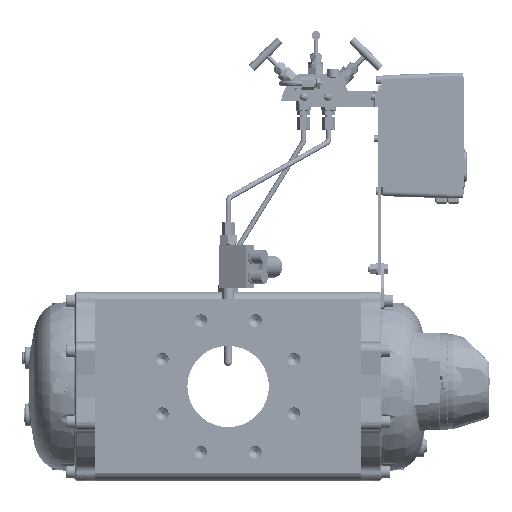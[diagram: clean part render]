
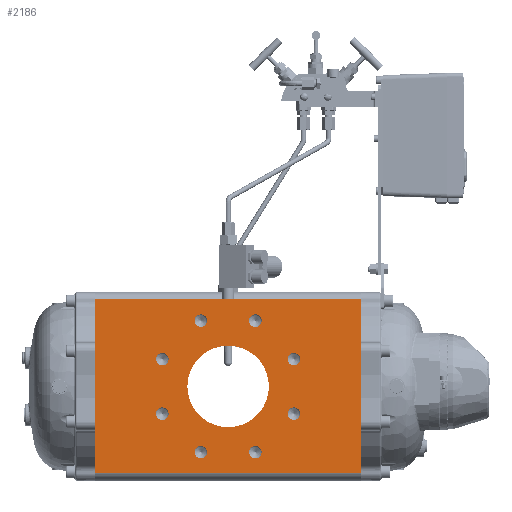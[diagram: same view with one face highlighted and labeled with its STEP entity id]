
A CAD part, front view. The second image highlights one B-rep face of the part: STEP entity #2186.
In plain terms, the highlighted planar face has unit normal (0, -1, 0).
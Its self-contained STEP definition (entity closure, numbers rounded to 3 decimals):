
#2186=ADVANCED_FACE('',(#93724,#93726,#93728,#93730,#93732,#93734,#93736,#93738,
#93740,#93742),#93744,.T.);
#93724=FACE_BOUND('',#93725,.T.);
#93725=EDGE_LOOP('',(#178975,#178976,#178977,#178978));
#93726=FACE_BOUND('',#93727,.T.);
#93727=EDGE_LOOP('',(#178979));
#93728=FACE_BOUND('',#93729,.T.);
#93729=EDGE_LOOP('',(#178980));
#93730=FACE_BOUND('',#93731,.T.);
#93731=EDGE_LOOP('',(#178981));
#93732=FACE_BOUND('',#93733,.T.);
#93733=EDGE_LOOP('',(#178982));
#93734=FACE_BOUND('',#93735,.T.);
#93735=EDGE_LOOP('',(#178983));
#93736=FACE_BOUND('',#93737,.T.);
#93737=EDGE_LOOP('',(#178984));
#93738=FACE_BOUND('',#93739,.T.);
#93739=EDGE_LOOP('',(#178985));
#93740=FACE_BOUND('',#93741,.T.);
#93741=EDGE_LOOP('',(#178986));
#93742=FACE_BOUND('',#93743,.T.);
#93743=EDGE_LOOP('',(#178987));
#93744=PLANE('',#93745);
#93745=AXIS2_PLACEMENT_3D('',#93746,#93747,#93748);
#93746=CARTESIAN_POINT('',(-336.,-120.5,110.));
#93747=DIRECTION('',(0.,-1.,0.));
#93748=DIRECTION('',(0.,0.,-1.));
#178975=ORIENTED_EDGE('',*,*,#247462,.T.);
#178976=ORIENTED_EDGE('',*,*,#247463,.T.);
#178977=ORIENTED_EDGE('',*,*,#247209,.T.);
#178978=ORIENTED_EDGE('',*,*,#247461,.F.);
#178979=ORIENTED_EDGE('',*,*,#247464,.T.);
#178980=ORIENTED_EDGE('',*,*,#247465,.T.);
#178981=ORIENTED_EDGE('',*,*,#247466,.T.);
#178982=ORIENTED_EDGE('',*,*,#247467,.T.);
#178983=ORIENTED_EDGE('',*,*,#247468,.T.);
#178984=ORIENTED_EDGE('',*,*,#247469,.T.);
#178985=ORIENTED_EDGE('',*,*,#247470,.T.);
#178986=ORIENTED_EDGE('',*,*,#247471,.T.);
#178987=ORIENTED_EDGE('',*,*,#247472,.T.);
#247209=EDGE_CURVE('',#277652,#277650,#277653,.T.);
#247461=EDGE_CURVE('',#278097,#277650,#278099,.T.);
#247462=EDGE_CURVE('',#278097,#278100,#278101,.T.);
#247463=EDGE_CURVE('',#278100,#277652,#278102,.T.);
#247464=EDGE_CURVE('',#278103,#278103,#278104,.T.);
#247465=EDGE_CURVE('',#278105,#278105,#278106,.T.);
#247466=EDGE_CURVE('',#278107,#278107,#278108,.T.);
#247467=EDGE_CURVE('',#278109,#278109,#278110,.T.);
#247468=EDGE_CURVE('',#278111,#278111,#278112,.T.);
#247469=EDGE_CURVE('',#278113,#278113,#278114,.T.);
#247470=EDGE_CURVE('',#278115,#278115,#278116,.T.);
#247471=EDGE_CURVE('',#278117,#278117,#278118,.T.);
#247472=EDGE_CURVE('',#278119,#278119,#278120,.T.);
#277650=VERTEX_POINT('',#327040);
#277652=VERTEX_POINT('',#327044);
#277653=LINE('',#327045,#327046);
#278097=VERTEX_POINT('',#330366);
#278099=LINE('',#330370,#330371);
#278100=VERTEX_POINT('',#330373);
#278101=LINE('',#330374,#330375);
#278102=LINE('',#330377,#330378);
#278103=VERTEX_POINT('',#330380);
#278104=CIRCLE('',#330381,7.917);
#278105=VERTEX_POINT('',#330385);
#278106=CIRCLE('',#330386,7.917);
#278107=VERTEX_POINT('',#330390);
#278108=CIRCLE('',#330391,7.917);
#278109=VERTEX_POINT('',#330395);
#278110=CIRCLE('',#330396,7.917);
#278111=VERTEX_POINT('',#330400);
#278112=CIRCLE('',#330401,7.917);
#278113=VERTEX_POINT('',#330405);
#278114=CIRCLE('',#330406,7.917);
#278115=VERTEX_POINT('',#330410);
#278116=CIRCLE('',#330411,7.917);
#278117=VERTEX_POINT('',#330415);
#278118=CIRCLE('',#330416,51.5);
#278119=VERTEX_POINT('',#330420);
#278120=CIRCLE('',#330421,7.917);
#327040=CARTESIAN_POINT('',(0.,-120.5,110.));
#327044=CARTESIAN_POINT('',(0.,-120.5,-110.));
#327045=CARTESIAN_POINT('',(0.,-120.5,-110.));
#327046=VECTOR('',#327047,1.);
#327047=DIRECTION('',(0.,0.,1.));
#330366=CARTESIAN_POINT('',(-336.,-120.5,110.));
#330370=CARTESIAN_POINT('',(-336.,-120.5,110.));
#330371=VECTOR('',#330372,1.);
#330372=DIRECTION('',(1.,0.,0.));
#330373=CARTESIAN_POINT('',(-336.,-120.5,-110.));
#330374=CARTESIAN_POINT('',(-336.,-120.5,110.));
#330375=VECTOR('',#330376,1.);
#330376=DIRECTION('',(0.,0.,-1.));
#330377=CARTESIAN_POINT('',(-336.,-120.5,-110.));
#330378=VECTOR('',#330379,1.);
#330379=DIRECTION('',(1.,0.,0.));
#330380=CARTESIAN_POINT('',(-194.524,-120.5,83.149));
#330381=AXIS2_PLACEMENT_3D('',#330382,#330383,#330384);
#330382=CARTESIAN_POINT('',(-202.442,-120.5,83.149));
#330383=DIRECTION('',(0.,1.,0.));
#330384=DIRECTION('',(1.,0.,0.));
#330385=CARTESIAN_POINT('',(-243.232,-120.5,34.442));
#330386=AXIS2_PLACEMENT_3D('',#330387,#330388,#330389);
#330387=CARTESIAN_POINT('',(-251.149,-120.5,34.442));
#330388=DIRECTION('',(0.,1.,0.));
#330389=DIRECTION('',(1.,0.,0.));
#330390=CARTESIAN_POINT('',(-76.933,-120.5,34.442));
#330391=AXIS2_PLACEMENT_3D('',#330392,#330393,#330394);
#330392=CARTESIAN_POINT('',(-84.851,-120.5,34.442));
#330393=DIRECTION('',(0.,1.,0.));
#330394=DIRECTION('',(1.,0.,0.));
#330395=CARTESIAN_POINT('',(-76.933,-120.5,-34.442));
#330396=AXIS2_PLACEMENT_3D('',#330397,#330398,#330399);
#330397=CARTESIAN_POINT('',(-84.851,-120.5,-34.442));
#330398=DIRECTION('',(0.,1.,0.));
#330399=DIRECTION('',(1.,0.,0.));
#330400=CARTESIAN_POINT('',(-125.641,-120.5,-83.149));
#330401=AXIS2_PLACEMENT_3D('',#330402,#330403,#330404);
#330402=CARTESIAN_POINT('',(-133.558,-120.5,-83.149));
#330403=DIRECTION('',(0.,1.,0.));
#330404=DIRECTION('',(1.,0.,0.));
#330405=CARTESIAN_POINT('',(-194.524,-120.5,-83.149));
#330406=AXIS2_PLACEMENT_3D('',#330407,#330408,#330409);
#330407=CARTESIAN_POINT('',(-202.442,-120.5,-83.149));
#330408=DIRECTION('',(0.,1.,0.));
#330409=DIRECTION('',(1.,0.,0.));
#330410=CARTESIAN_POINT('',(-243.232,-120.5,-34.442));
#330411=AXIS2_PLACEMENT_3D('',#330412,#330413,#330414);
#330412=CARTESIAN_POINT('',(-251.149,-120.5,-34.442));
#330413=DIRECTION('',(0.,1.,0.));
#330414=DIRECTION('',(1.,0.,0.));
#330415=CARTESIAN_POINT('',(-219.5,-120.5,0.));
#330416=AXIS2_PLACEMENT_3D('',#330417,#330418,#330419);
#330417=CARTESIAN_POINT('',(-168.,-120.5,0.));
#330418=DIRECTION('',(0.,1.,0.));
#330419=DIRECTION('',(-1.,0.,0.));
#330420=CARTESIAN_POINT('',(-125.641,-120.5,83.149));
#330421=AXIS2_PLACEMENT_3D('',#330422,#330423,#330424);
#330422=CARTESIAN_POINT('',(-133.558,-120.5,83.149));
#330423=DIRECTION('',(0.,1.,0.));
#330424=DIRECTION('',(1.,0.,0.));
